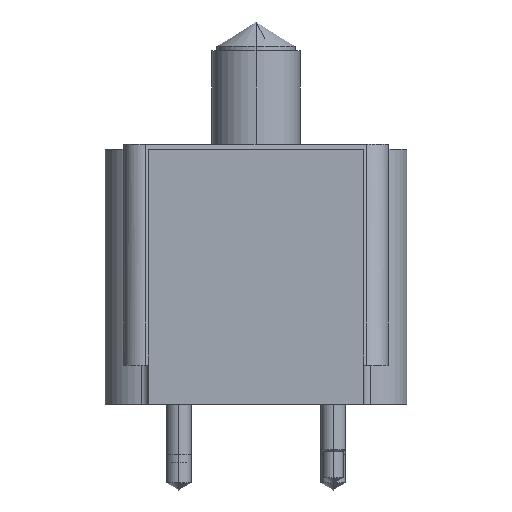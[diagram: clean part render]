
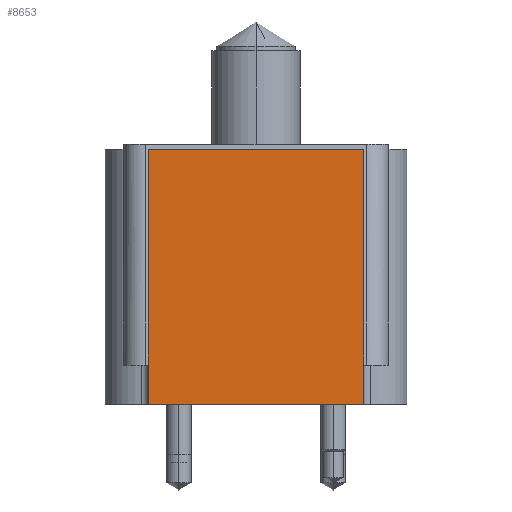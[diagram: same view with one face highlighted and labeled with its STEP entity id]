
A CAD part, left-side view. The second image highlights one B-rep face of the part: STEP entity #8653.
In plain terms, the highlighted planar face has unit normal (-1, 0, 0).
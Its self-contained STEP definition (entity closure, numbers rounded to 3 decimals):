
#8380=CARTESIAN_POINT('',(-84.201,-34.988,0.0));
#8381=VERTEX_POINT('',#8380);
#8398=CARTESIAN_POINT('',(-84.201,-34.988,82.55));
#8399=VERTEX_POINT('',#8398);
#8406=CARTESIAN_POINT('',(-84.201,-34.988,6.35));
#8407=DIRECTION('',(0.0,0.0,-1.0));
#8408=VECTOR('',#8407,1.0);
#8409=LINE('',#8406,#8408);
#8410=EDGE_CURVE('',#8399,#8381,#8409,.T.);
#8461=CARTESIAN_POINT('',(-84.201,34.988,0.0));
#8462=VERTEX_POINT('',#8461);
#8463=CARTESIAN_POINT('',(-84.201,0.0,0.0));
#8464=DIRECTION('',(0.0,-1.0,0.0));
#8465=VECTOR('',#8464,1.0);
#8466=LINE('',#8463,#8465);
#8467=EDGE_CURVE('',#8462,#8381,#8466,.T.);
#8630=ORIENTED_EDGE('',*,*,#8467,.T.);
#8631=ORIENTED_EDGE('',*,*,#8410,.F.);
#8632=CARTESIAN_POINT('',(-84.201,34.988,82.55));
#8633=VERTEX_POINT('',#8632);
#8634=CARTESIAN_POINT('',(-84.201,0.0,82.55));
#8635=DIRECTION('',(0.0,1.0,0.0));
#8636=VECTOR('',#8635,1.0);
#8637=LINE('',#8634,#8636);
#8638=EDGE_CURVE('',#8399,#8633,#8637,.T.);
#8639=ORIENTED_EDGE('',*,*,#8638,.T.);
#8640=CARTESIAN_POINT('',(-84.201,34.988,6.35));
#8641=DIRECTION('',(0.0,0.0,1.0));
#8642=VECTOR('',#8641,1.0);
#8643=LINE('',#8640,#8642);
#8644=EDGE_CURVE('',#8462,#8633,#8643,.T.);
#8645=ORIENTED_EDGE('',*,*,#8644,.F.);
#8646=EDGE_LOOP('',(#8630,#8631,#8639,#8645));
#8647=FACE_OUTER_BOUND('',#8646,.T.);
#8648=CARTESIAN_POINT('',(-84.201,0.0,0.0));
#8649=DIRECTION('',(-1.0,0.0,-0.0));
#8650=DIRECTION('',(-0.0,0.0,1.0));
#8651=AXIS2_PLACEMENT_3D('',#8648,#8649,#8650);
#8652=PLANE('',#8651);
#8653=ADVANCED_FACE('',(#8647),#8652,.T.);
